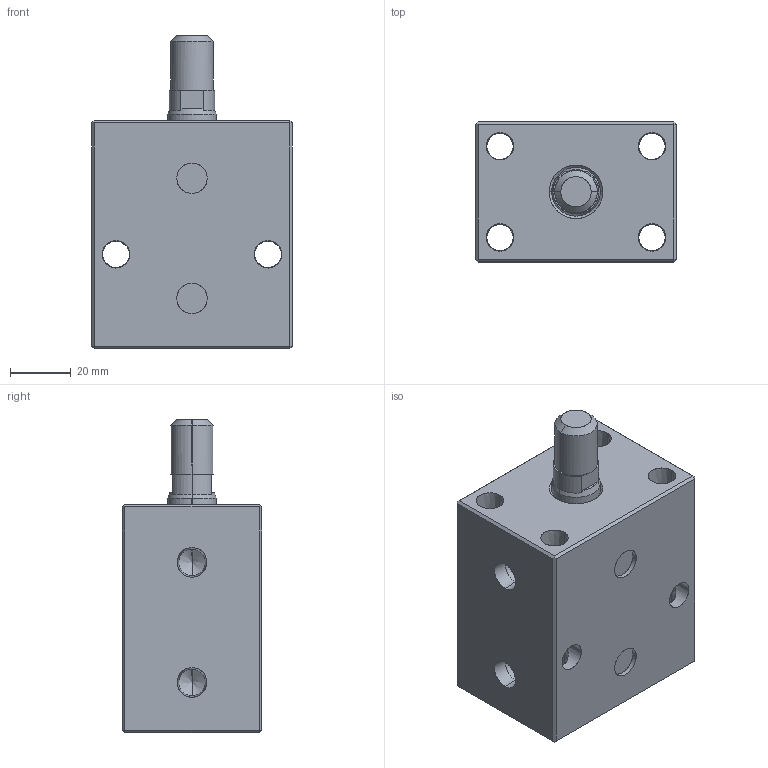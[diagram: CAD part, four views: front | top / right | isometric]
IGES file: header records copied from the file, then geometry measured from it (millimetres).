
Start section: SolidWorks IGES file using analytic representation for surfaces
Global section: file name: E:\ALL-SSVT-BLOCK\IGSMODEL-25-BORE\BC04-25-25-M.IGS; native system: SolidWorks 2019; preprocessor: SolidWorks 2019; author: SSVT; date: 210824.092125; units: millimetre
Bounding box: 66 x 46 x 103 mm (x, y, z)
Surface area: 40216.2 mm2 (no closed solid volume)
Topology: 0 solids, 0 shells, 95 faces, 1705 edges, 1701 vertices
Faces by surface type: revolution 59, bspline 36
